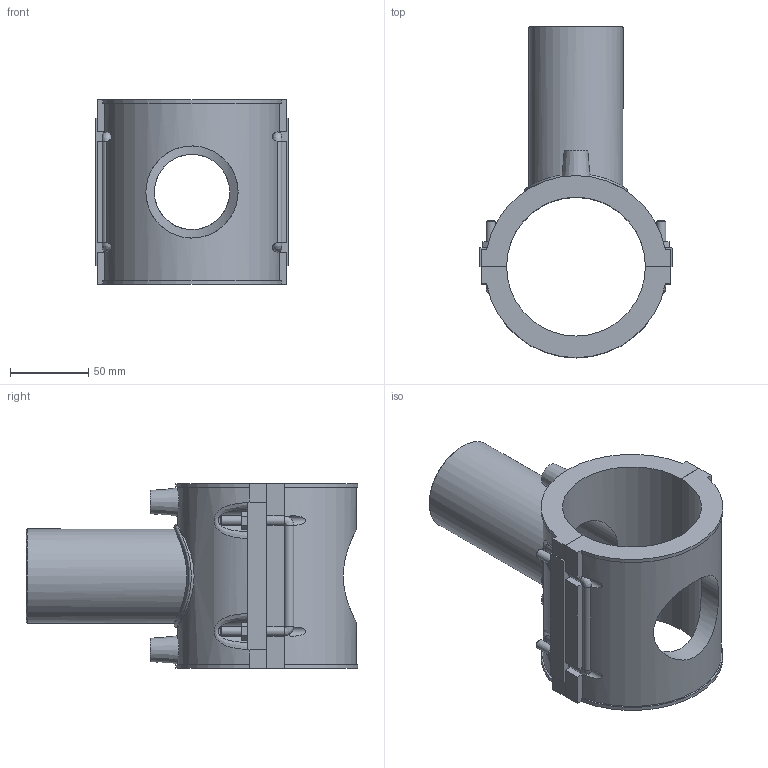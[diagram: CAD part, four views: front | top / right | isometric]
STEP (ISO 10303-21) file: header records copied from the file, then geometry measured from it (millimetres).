
FILE_DESCRIPTION(/* description */ ('PLASSON BRANCH SADDLE 3'''' x 2'''''),/* implementation_level */ '2;1');
FILE_NAME(/* name */ 'C:\Dropbox\KIMPROJECTS-Inventor 2019\99-16-3568-Processing Inch\ASTM ElectroFusion 2021\5958B-2\5958BB03030020.ipt.stp',/* time_stamp */ '2021-08-30T09:53:37+03:00',/* author */ ('KIM'),/* organization */ (''),/* preprocessor_version */ 'ST-DEVELOPER v17.2',/* originating_system */ 'Autodesk Inventor 2019',/* authorisation */ '');
FILE_SCHEMA (('AUTOMOTIVE_DESIGN { 1 0 10303 214 3 1 1 }'));
Length unit declared in the file: inch
Products named in the file (1): 5958BB03030020
Bounding box: 122.9 x 212.01 x 118.11 mm (x, y, z)
Volume: 549329.4 mm3; surface area: 130241.4 mm2
Topology: 1 solids, 1 shells, 149 faces, 392 edges, 255 vertices
Faces by surface type: plane 95, cylinder 38, bspline 9, cone 7
Full cylindrical faces by diameter (mm): 4 x2, 6 x8, 10 x2, 48.08 x1, 58.898 x1, 60.1 x1, 66.11 x1
Entity records: 5839 total; most frequent: CARTESIAN_POINT 2123, ORIENTED_EDGE 784, DIRECTION 720, EDGE_CURVE 392, VERTEX_POINT 255, LINE 252, VECTOR 252, AXIS2_PLACEMENT_3D 234
